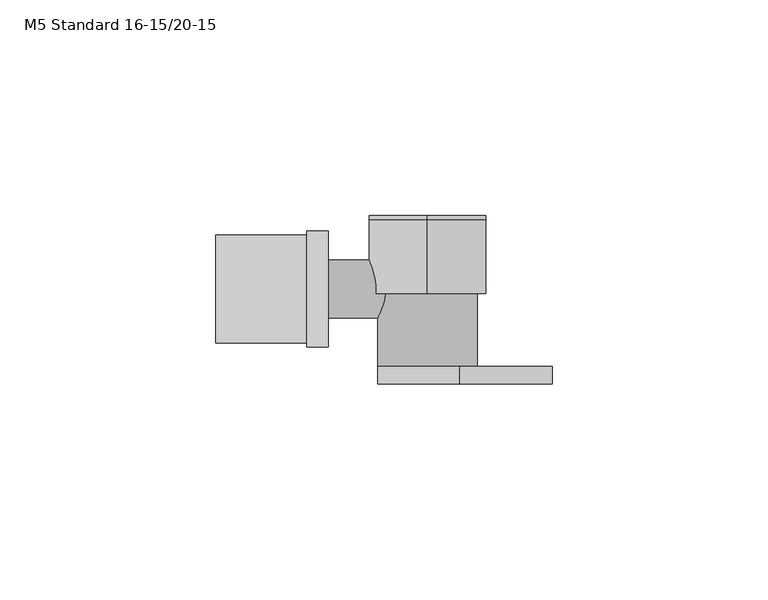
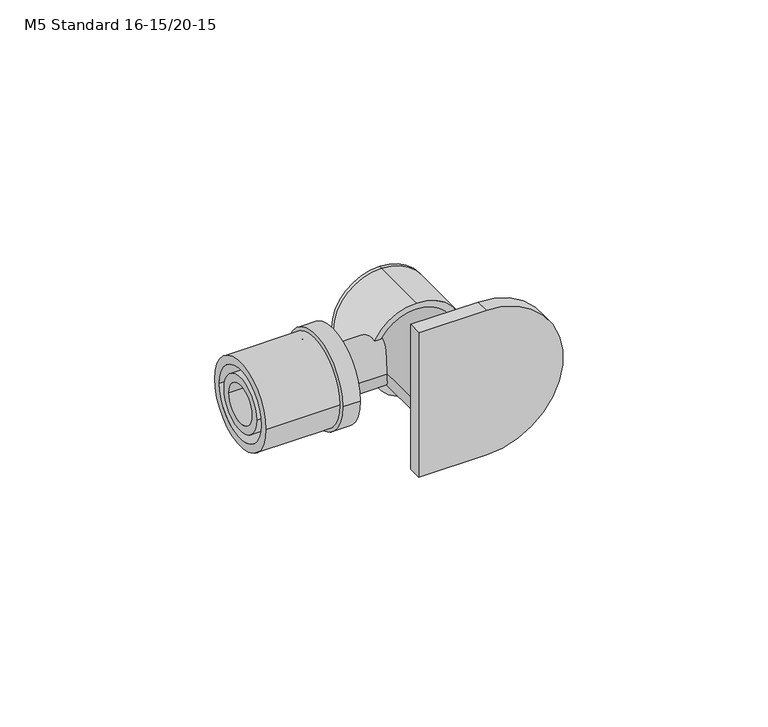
"""IFC4 building model written with IfcOpenShell, lengths in millimetres: pipe fitting geometry, PIF_Tigris_Wall_Flange_Elbow_M-K_FMT_Wavin : M5 Standard 16-15/20-15."""

from ifc_helpers import new_model, si_unit, point, frame, origin, origin_2d, place, context, project, spatial, circle_curve, trimmed, segment, composite_curve, outline, extrude, source, transform, mapped, element, save
from ifc_brep_helpers import plane_surface, cylinder_surface, advanced_brep


def m5_standard_16_15_20_15_5170dde5(model_context):
    return source(origin(), model_context, "Body", "SolidModel", [
        advanced_brep(
        [(7.5, -18.0, -21.5), (-11.5, -18.0, -21.5), (-11.5, -18.0, 0.0), (11.5, -18.0, 0.0), (-11.5, -18.0, 21.5), (7.5, -18.0, 21.5), (7.5, -22.0, 21.5), (7.5, -22.0, -21.5), (-11.5, -22.0, -21.5), (-11.5, -22.0, 21.5), (11.5, 0.0, 0.0), (-11.5, 0.0, 0.0)],
        [
            (0, 1),
            (1, 2),
            (2, 3, circle_curve(frame((0.0, -18.0, 0.0), z_axis=(0.0, -1.0, 0.0), x_axis=(-1.0000000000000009, 0.0, 0.0)), 11.5)),
            (3, 2, circle_curve(frame((0.0, -18.0, 0.0), z_axis=(0.0, -1.0, 0.0), x_axis=(-1.0000000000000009, 0.0, 0.0)), 11.5)),
            (2, 4),
            (4, 5),
            (5, 0, circle_curve(frame((7.5, -18.0, 0.0), z_axis=(0.0, 1.0, 0.0), x_axis=(0.0, 0.0, 1.0000000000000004)), 21.5)),
            (5, 6),
            (6, 7, circle_curve(frame((7.5, -22.0, 0.0), z_axis=(0.0, 1.0, 0.0), x_axis=(0.0, 0.0, 1.0000000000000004)), 21.5)),
            (7, 0),
            (7, 8),
            (8, 1),
            (9, 4),
            (8, 9),
            (9, 6),
            (10, 11, circle_curve(frame((0.0, 0.0, 0.0), z_axis=(0.0, 1.0, 0.0), x_axis=(-1.0000000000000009, 0.0, 0.0)), 11.5)),
            (11, 10, circle_curve(frame((0.0, 0.0, 0.0), z_axis=(0.0, 1.0, 0.0), x_axis=(-1.0000000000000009, 0.0, 0.0)), 11.5)),
            (11, 2),
            (3, 10),
        ],
        [
            plane_surface(frame((-11.5, -18.0, -21.5), z_axis=(0.0, 1.0, 0.0), x_axis=(1.0, 0.0, 0.0))),
            cylinder_surface(frame((7.5, -18.0, 0.0), z_axis=(0.0, -1.0000000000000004, 0.0), x_axis=(0.0, 0.0, 1.0000000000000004)), 21.5),
            plane_surface(frame((7.5, -22.0, -21.5), z_axis=(0.0, 0.0, -1.0), x_axis=(0.0, 1.0, 0.0))),
            plane_surface(frame((-11.5, -22.0, -21.5), z_axis=(-1.0, 0.0, 0.0), x_axis=(0.0, 1.0, 0.0))),
            plane_surface(frame((-11.5, -22.0, 21.5), z_axis=(0.0, 0.0, 1.0), x_axis=(0.0, 1.0, 0.0))),
            plane_surface(frame((0.0, 0.0, 0.0), z_axis=(0.0, 1.0, 0.0), x_axis=(0.0, 0.0, 1.0))),
            plane_surface(frame((0.0, -22.0, 0.0), z_axis=(0.0, -1.0, 0.0), x_axis=(0.0, 0.0, 1.0))),
            cylinder_surface(frame((0.0, 0.0, 0.0), z_axis=(0.0, 1.0000000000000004, 0.0), x_axis=(-1.0000000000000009, 0.0, 0.0)), 11.5),
        ],
        [
            (0, [[1, 2, 3, 4, 5, 6, 7]]),
            (1, [[8, 9, 10, -7]]),
            (2, [[-10, 11, 12, -1]]),
            (3, [[13, -5, -2, -12, 14]]),
            (4, [[-13, 15, -8, -6]]),
            (5, [[16, 17]]),
            (6, [[-9, -15, -14, -11]]),
            (7, [[18, -4, 19, -17]]),
            (7, [[-19, -3, -18, -16]]),
        ],
    ),
        extrude(outline(composite_curve([segment(trimmed(circle_curve(origin_2d(), 13.5), [point((-13.5, 0.0))], [point((13.5, 0.0))], False, "CARTESIAN"), True, "CONTINUOUS"), segment(trimmed(circle_curve(origin_2d(), 13.5), [point((13.5, 0.0))], [point((-13.5, 0.0))], False, "CARTESIAN"), True, "CONTINUOUS")], self_intersect=False)), frame((0.0, -1.0, 0.0), z_axis=(0.0, 1.0, 0.0), x_axis=(0.0, 0.0, 1.0)), (0.0, 0.0, 1.0), 17.0),
        extrude(outline(composite_curve([segment(trimmed(circle_curve(origin_2d(), 13.5), [point((-13.5, 0.0))], [point((13.5, 0.0))], False, "CARTESIAN"), True, "CONTINUOUS"), segment(trimmed(circle_curve(origin_2d(), 13.5), [point((13.5, 0.0))], [point((-13.5, 0.0))], False, "CARTESIAN"), True, "CONTINUOUS")], self_intersect=False)), frame((0.0, 16.0, 0.0), z_axis=(0.0, 1.0, 0.0), x_axis=(0.0, 0.0, 1.0)), (0.0, 0.0, 1.0), 1.0),
        extrude(outline(composite_curve([segment(trimmed(circle_curve(origin_2d(), 13.45), [point((-13.45, 0.0))], [point((13.45, 0.0))], False, "CARTESIAN"), True, "CONTINUOUS"), segment(trimmed(circle_curve(origin_2d(), 13.45), [point((13.45, 0.0))], [point((-13.45, 0.0))], False, "CARTESIAN"), True, "CONTINUOUS")], self_intersect=False)), frame((-28.0, 0.0, 0.0), z_axis=(1.0, 0.0, 0.0), x_axis=(0.0, 1.0, 0.0)), (0.0, 0.0, 1.0), 5.0),
        extrude(outline(composite_curve([segment(trimmed(circle_curve(origin_2d(), 12.5), [point((-12.5, 0.0))], [point((12.5, 0.0))], False, "CARTESIAN"), True, "CONTINUOUS"), segment(trimmed(circle_curve(origin_2d(), 12.5), [point((12.5, 0.0))], [point((-12.5, 0.0))], False, "CARTESIAN"), True, "CONTINUOUS")], self_intersect=False), holes=[composite_curve([segment(trimmed(circle_curve(origin_2d(), 10.2), [point((-10.2, 0.0))], [point((10.2, 0.0))], True, "CARTESIAN"), True, "CONTINUOUS"), segment(trimmed(circle_curve(origin_2d(), 10.2), [point((10.2, 0.0))], [point((-10.2, 0.0))], True, "CARTESIAN"), True, "CONTINUOUS")], self_intersect=False)]), frame((-49.0, 0.0, 0.0), z_axis=(1.0, 0.0, 0.0), x_axis=(0.0, 1.0, 0.0)), (0.0, 0.0, 1.0), 21.0),
        extrude(outline(composite_curve([segment(trimmed(circle_curve(origin_2d(), 7.9), [point((-7.9, 0.0))], [point((7.9, 0.0))], False, "CARTESIAN"), True, "CONTINUOUS"), segment(trimmed(circle_curve(origin_2d(), 7.9), [point((7.9, 0.0))], [point((-7.9, 0.0))], False, "CARTESIAN"), True, "CONTINUOUS")], self_intersect=False), holes=[composite_curve([segment(trimmed(circle_curve(origin_2d(), 5.6), [point((-5.6, 0.0))], [point((5.6, 0.0))], True, "CARTESIAN"), True, "CONTINUOUS"), segment(trimmed(circle_curve(origin_2d(), 5.6), [point((5.6, 0.0))], [point((-5.6, 0.0))], True, "CARTESIAN"), True, "CONTINUOUS")], self_intersect=False)]), frame((-49.0, 0.0, 0.0), z_axis=(1.0, 0.0, 0.0), x_axis=(0.0, 1.0, 0.0)), (0.0, 0.0, 1.0), 26.0),
        extrude(outline(composite_curve([segment(trimmed(circle_curve(origin_2d(), 6.75), [point((0.0, 6.75))], [point((0.0, -6.75))], False, "CARTESIAN"), True, "CONTINUOUS"), segment(trimmed(circle_curve(origin_2d(), 6.75), [point((0.0, -6.75))], [point((0.0, 6.75))], False, "CARTESIAN"), True, "CONTINUOUS")], self_intersect=False)), frame((0.0, 0.0, 0.0), z_axis=(0.0, 1.0, 0.0), x_axis=(0.0, 0.0, 1.0)), (0.0, 0.0, 1.0), 6.0),
        extrude(outline(composite_curve([segment(trimmed(circle_curve(origin_2d(), 6.75), [point((-6.75, 0.0))], [point((6.75, 0.0))], False, "CARTESIAN"), True, "CONTINUOUS"), segment(trimmed(circle_curve(origin_2d(), 6.75), [point((6.75, 0.0))], [point((-6.75, 0.0))], False, "CARTESIAN"), True, "CONTINUOUS")], self_intersect=False)), frame((-23.0, 0.0, 0.0), z_axis=(1.0, 0.0, 0.0), x_axis=(0.0, 1.0, 0.0)), (0.0, 0.0, 1.0), 23.0),
    ])


if __name__ == "__main__":
    model = new_model("IFC4")
    model_context = context("Model", 3, world=origin())
    ifc_project = project(units=[si_unit("LENGTHUNIT", "METRE", prefix="MILLI")], contexts=[model_context])
    site = spatial("IfcSite", under=ifc_project)
    building = spatial("IfcBuilding", under=site)
    placement = place(None, origin())
    m5_standard_16_15_20_15_shape = m5_standard_16_15_20_15_5170dde5(model_context)
    element("IfcPipeFitting", 1, ObjectType="PIF_Tigris_Wall_Flange_Elbow_M-K_FMT_Wavin : M5 Standard 16-15/20-15", at=placement, inside=building, context=model_context, shape_type="MappedRepresentation", body=[
        mapped(m5_standard_16_15_20_15_shape, transform((0.0, 0.0, 0.0), x_axis=(1.0, 0.0, 0.0), y_axis=(0.0, 1.0, 0.0), z_axis=(0.0, 0.0, 1.0))),
    ])
    save(model, "model.ifc")
